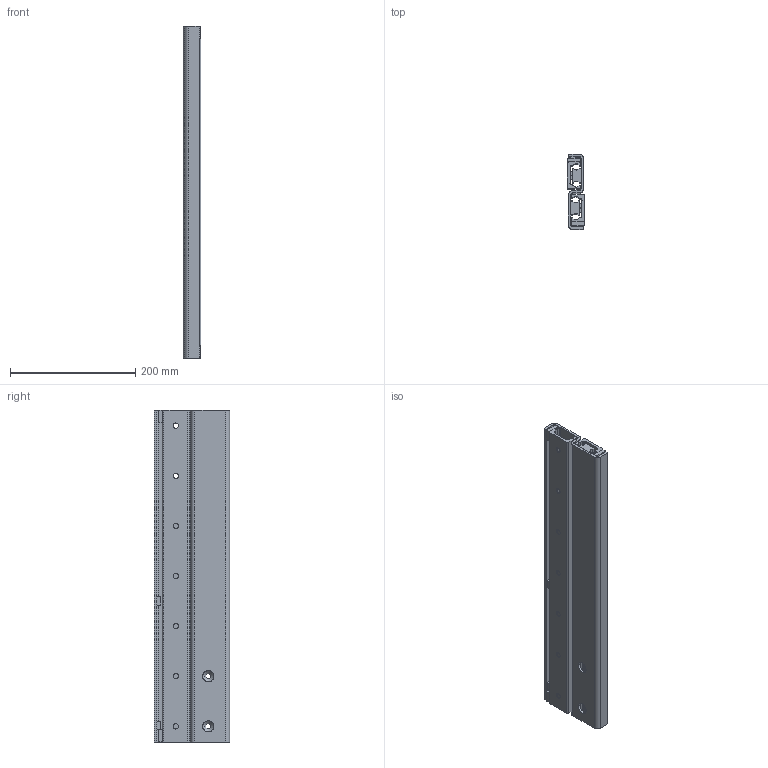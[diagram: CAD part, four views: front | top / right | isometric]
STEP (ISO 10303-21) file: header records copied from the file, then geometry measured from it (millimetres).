
FILE_DESCRIPTION(('STEP AP214'),'1');
FILE_NAME('rail_dss43-530_00.stp','2017-04-17T04:00:29',('TraceParts'),('TraceParts S.A.'),'Spatial InterOp 3D',' ',' ');
FILE_SCHEMA(('automotive_design'));
Length unit declared in the file: millimetre
Products named in the file (3): rail_dss43-530_00_1; rail_dss43-530_00_2; rail_dss43-530_00_3
Bounding box: 28 x 120 x 530 mm (x, y, z)
Volume: 944277.2 mm3; surface area: 382613.6 mm2
Topology: 3 solids, 3 shells, 254 faces, 686 edges, 448 vertices
Faces by surface type: plane 138, cylinder 88, cone 28
Entity records: 8103 total; most frequent: DIRECTION 1420, CARTESIAN_POINT 1391, ORIENTED_EDGE 1372, EDGE_CURVE 686, AXIS2_PLACEMENT_3D 477, LINE 466, VECTOR 466, VERTEX_POINT 448
